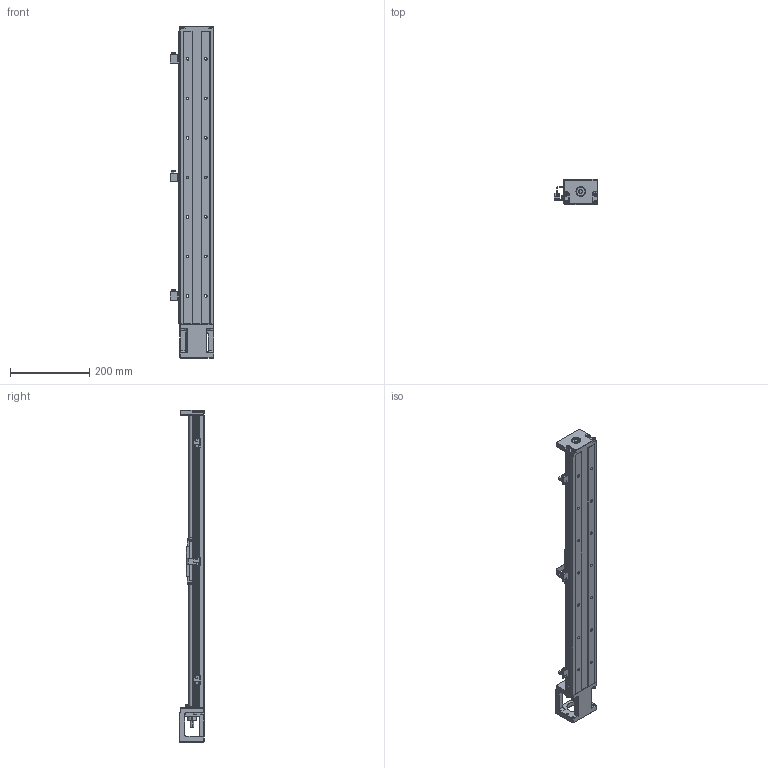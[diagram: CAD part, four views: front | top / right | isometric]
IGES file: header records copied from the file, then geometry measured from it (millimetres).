
Start section: SolidWorks IGES file using analytic representation for surfaces
Bounding box: 109.8 x 64 x 840 mm (x, y, z)
Surface area: 371614.7 mm2 (no closed solid volume)
Topology: 0 solids, 0 shells, 1419 faces, 16874 edges, 16756 vertices
Faces by surface type: bspline 804, revolution 615
